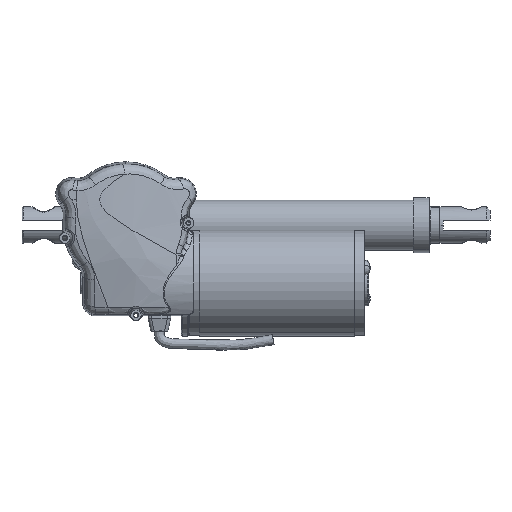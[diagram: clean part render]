
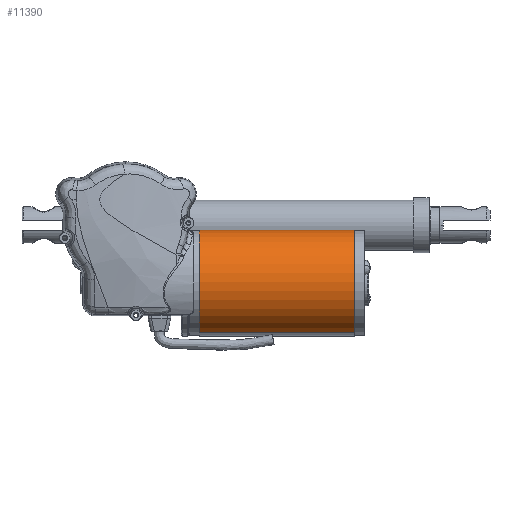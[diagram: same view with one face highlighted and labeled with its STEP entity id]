
A CAD part, left-side view. The second image highlights one B-rep face of the part: STEP entity #11390.
In plain terms, the highlighted cylindrical face has radius 31.75 mm (diameter 63.5 mm), a partial arc.
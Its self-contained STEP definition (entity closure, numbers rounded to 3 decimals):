
#1339 = VECTOR ( 'NONE', #9450, 1000. ) ;
#1440 = VECTOR ( 'NONE', #9141, 1000. ) ;
#1509 = AXIS2_PLACEMENT_3D ( 'NONE', #9023, #9019, #9013 ) ;
#1520 = AXIS2_PLACEMENT_3D ( 'NONE', #8979, #8973, #8969 ) ;
#2004 = EDGE_CURVE ( 'NONE', #30012, #30090, #9452, .T. ) ;
#2045 = EDGE_CURVE ( 'NONE', #30015, #30093, #9144, .T. ) ;
#2173 = EDGE_CURVE ( 'NONE', #30015, #30012, #2360, .T. ) ;
#2176 = EDGE_CURVE ( 'NONE', #30090, #30093, #2491, .T. ) ;
#2360 = CIRCLE ( 'NONE', #1509, 31.75 ) ;
#2491 = CIRCLE ( 'NONE', #1520, 31.75 ) ;
#8969 = DIRECTION ( 'NONE',  ( -0.358, 0., -0.934 ) ) ;
#8973 = DIRECTION ( 'NONE',  ( 0., 1., 0. ) ) ;
#8979 = CARTESIAN_POINT ( 'NONE',  ( -60., -136.4, -34.8 ) ) ;
#9013 = DIRECTION ( 'NONE',  ( -0.358, 0., -0.934 ) ) ;
#9019 = DIRECTION ( 'NONE',  ( 0., -1., 0. ) ) ;
#9023 = CARTESIAN_POINT ( 'NONE',  ( -60., -43.4, -34.8 ) ) ;
#9141 = DIRECTION ( 'NONE',  ( 0., -1., 0. ) ) ;
#9143 = CARTESIAN_POINT ( 'NONE',  ( -48.622, -163.917, -5.159 ) ) ;
#9144 = LINE ( 'NONE', #9143, #1440 ) ;
#9450 = DIRECTION ( 'NONE',  ( 0., -1., 0. ) ) ;
#9451 = CARTESIAN_POINT ( 'NONE',  ( -71.378, -163.917, -64.441 ) ) ;
#9452 = LINE ( 'NONE', #9451, #1339 ) ;
#11390 = ADVANCED_FACE ( 'NONE', ( #23974 ), #23966, .T. ) ;
#15846 = CARTESIAN_POINT ( 'NONE',  ( -60., -163.917, -34.8 ) ) ;
#15847 = DIRECTION ( 'NONE',  ( 0., -1., 0. ) ) ;
#15848 = DIRECTION ( 'NONE',  ( -0.358, 0., -0.934 ) ) ;
#16731 = EDGE_LOOP ( 'NONE', ( #18977, #18784, #19097, #19092 ) ) ;
#18784 = ORIENTED_EDGE ( 'NONE', *, *, #2173, .T. ) ;
#18977 = ORIENTED_EDGE ( 'NONE', *, *, #2045, .F. ) ;
#19092 = ORIENTED_EDGE ( 'NONE', *, *, #2176, .T. ) ;
#19097 = ORIENTED_EDGE ( 'NONE', *, *, #2004, .T. ) ;
#23965 = AXIS2_PLACEMENT_3D ( 'NONE', #15846, #15847, #15848 ) ;
#23966 = CYLINDRICAL_SURFACE ( 'NONE', #23965, 31.75 ) ;
#23974 = FACE_OUTER_BOUND ( 'NONE', #16731, .T. ) ;
#29437 = CARTESIAN_POINT ( 'NONE',  ( -71.378, -43.4, -64.441 ) ) ;
#29440 = CARTESIAN_POINT ( 'NONE',  ( -48.622, -43.4, -5.159 ) ) ;
#30012 = VERTEX_POINT ( 'NONE', #29437 ) ;
#30015 = VERTEX_POINT ( 'NONE', #29440 ) ;
#30090 = VERTEX_POINT ( 'NONE', #31678 ) ;
#30093 = VERTEX_POINT ( 'NONE', #31681 ) ;
#31678 = CARTESIAN_POINT ( 'NONE',  ( -71.378, -136.4, -64.441 ) ) ;
#31681 = CARTESIAN_POINT ( 'NONE',  ( -48.622, -136.4, -5.159 ) ) ;
